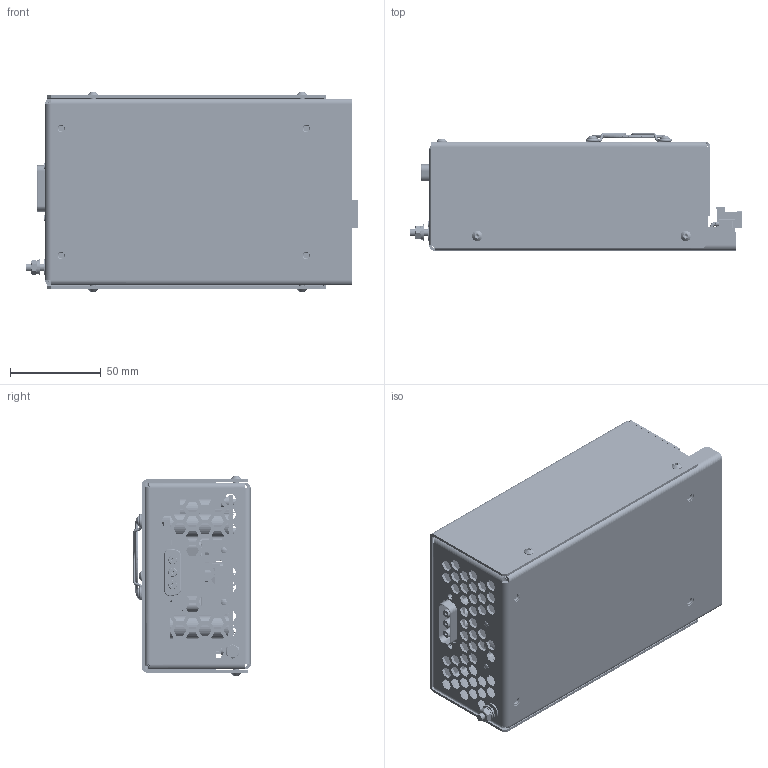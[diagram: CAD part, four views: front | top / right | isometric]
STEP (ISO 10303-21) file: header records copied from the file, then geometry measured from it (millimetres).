
FILE_DESCRIPTION (( 'STEP AP203' ), '1' );
FILE_NAME ('454.00.00.000-07 HVPS300.STEP', '2020-10-17T13:57:58', ( 'Admin' ), ( '' ), 'SwSTEP 2.0', 'SolidWorks 2014', '' );
FILE_SCHEMA (( 'CONFIG_CONTROL_DESIGN' ));
Length unit declared in the file: millimetre
Products named in the file (25): Âèíò M3x6 À2 ISO 7380; Harting TB09692812550; CN clinch nut M4; Øàéáà Ì3 DIN125 (Ñòàíä. èçä.); 454.00.01.000-07 扻豵鵨; CN clinch nut M3; Øàéáà Ì3 DIN127 (Ñòàíä. èçä.); 454.00.03.001-06 Êðûøêà; LFB063CTP; Âèíò Ì3õ8 À2 DIN912; Âòóëêà ðåçüá. íåïîëíîïðîõ. BSO-M3-12 ZI; FHS flush head stud M4x12; 454.00.00.000-07 HVPS300; ME50152V1-000U-A99; ﾘ琺矜 ﾌ4 DIN125; HVPS300 revE; 妈眚 󉱭0 ISO7380 A2; ﾘ琺矜 ﾌ4 DIN127; 454.00.01.001-07 ﾎ魵瑙韃; Ðåøåòêà 40õ40; Ãàéêà Ì4 DIN934; 454.00.01.002 Èçîëÿòîð; 454.00.03.000-06 Êðûøêà; Harting TB09692100033; Âòóëêà ðåçüá. íåïîëíîïðîõ. BSO-M3-10 ZI
Assembly tree (57 placements, depth 3):
  454.00.00.000-07 HVPS300
    HVPS300 revE
    454.00.01.000-07 扻豵鵨
      454.00.01.001-07 ﾎ魵瑙韃
      454.00.01.002 Èçîëÿòîð
      Âòóëêà ðåçüá. íåïîëíîïðîõ. BSO-M3-10 ZI  x4
      CN clinch nut M4  x4
      CN clinch nut M3  x5
      LFB063CTP  x2
      FHS flush head stud M4x12
      ﾘ琺矜 ﾌ4 DIN125  x2
      ﾘ琺矜 ﾌ4 DIN127
      Ãàéêà Ì4 DIN934
      Harting TB09692100033
      Harting TB09692812550  x3
    454.00.03.000-06 Êðûøêà
      454.00.03.001-06 Êðûøêà
      Âòóëêà ðåçüá. íåïîëíîïðîõ. BSO-M3-12 ZI  x4
      ME50152V1-000U-A99
      妈眚 󉱭0 ISO7380 A2  x4
      Ðåøåòêà 40õ40
    Âèíò M3x6 À2 ISO 7380  x5
    Øàéáà Ì3 DIN125 (Ñòàíä. èçä.)  x4
    Øàéáà Ì3 DIN127 (Ñòàíä. èçä.)  x4
    Âèíò Ì3õ8 À2 DIN912  x4
Bounding box: 182.91 x 64.7 x 109.8 mm (x, y, z)
Volume: 241141.4 mm3; surface area: 289807.8 mm2
Topology: 463 solids, 468 shells, 23867 faces, 60058 edges, 37816 vertices
Faces by surface type: plane 10478, bspline 7010, cylinder 5912, cone 260, torus 195, sphere 12
Entity records: 723464 total; most frequent: CARTESIAN_POINT 246780, ORIENTED_EDGE 113696, DIRECTION 69189, EDGE_CURVE 56852, VERTEX_POINT 35981, VECTOR 26715, LINE 26715, EDGE_LOOP 24243
